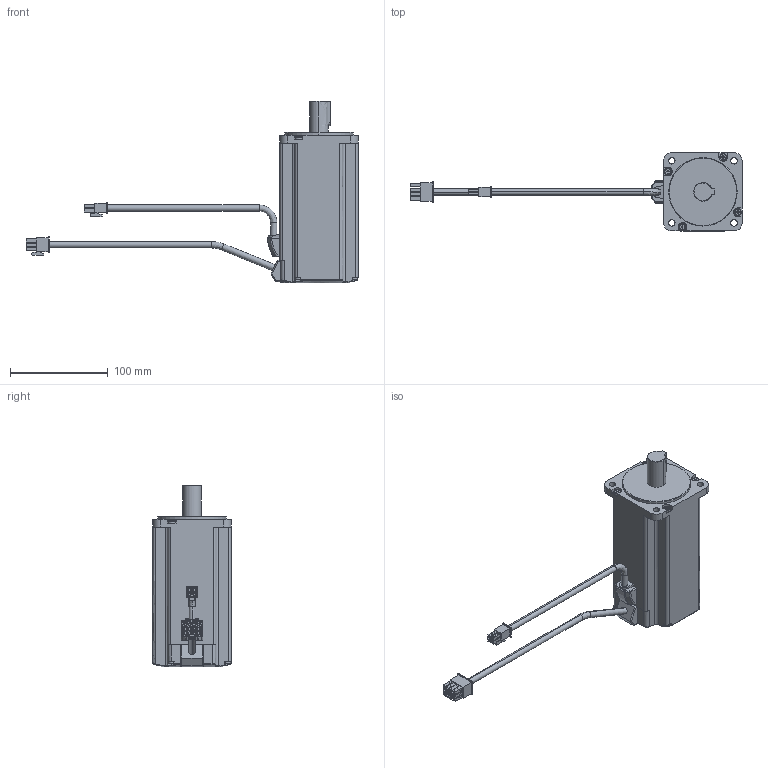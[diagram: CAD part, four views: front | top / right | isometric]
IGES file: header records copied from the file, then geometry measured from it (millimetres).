
Start section:  PTC IGES file: 10001040_rsmz-10ba_no-brake.igs
Global section: file name: 10001040_rsmz-10ba_no-brake.igs; native system: Pro/ENGINEER by Parametric Technology Corporation; preprocessor: 2004440; author: Administrator; organization: Unknown; date: 070829.201441; units: millimetre
Bounding box: 339.76 x 80 x 186 mm (x, y, z)
Volume: 870843.1 mm3; surface area: 78358.7 mm2
Topology: 1 solids, 1 shells, 494 faces, 1248 edges, 810 vertices
Faces by surface type: bspline 354, revolution 140
